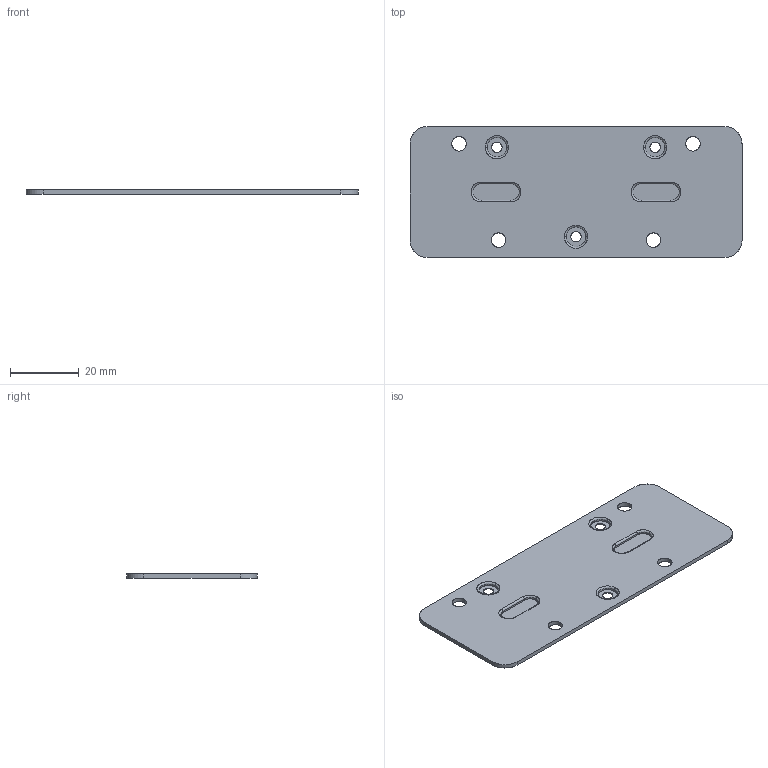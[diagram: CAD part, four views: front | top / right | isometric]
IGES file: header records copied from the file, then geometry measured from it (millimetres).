
Start section: SolidWorks IGES FILE using analytic representation for surfaces
Global section: file name: C:\Documents and Settings\lecoutey\Bureau\PR 1305\305.020.00.IGS; native system: SolidWorks 2004 by SolidWorks Corporation; preprocessor: Version 5.3; author: lecoutey; date: 050408.172055; units: millimetre
Bounding box: 96.5 x 38 x 1.2 mm (x, y, z)
Surface area: 7613.1 mm2 (no closed solid volume)
Topology: 0 solids, 0 shells, 61 faces, 1064 edges, 1064 vertices
Faces by surface type: revolution 34, bspline 27
